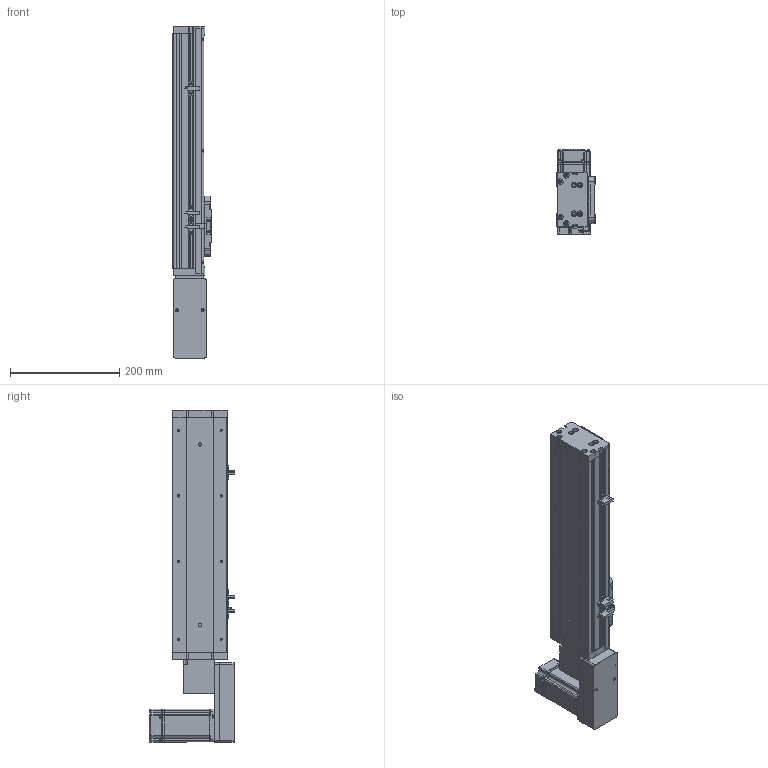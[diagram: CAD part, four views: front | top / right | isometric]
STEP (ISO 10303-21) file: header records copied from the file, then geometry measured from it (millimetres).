
FILE_DESCRIPTION (( 'STEP AP214' ), '1' );
FILE_NAME ('KSD100B-S250-MRB-CR.STEP', '2019-11-13T05:51:51', ( '微软用户' ), ( '微软中国' ), 'SwSTEP 2.0', 'SolidWorks 2014', '' );
FILE_SCHEMA (( 'AUTOMOTIVE_DESIGN' ));
Length unit declared in the file: millimetre
Products named in the file (15): 100遵裔啣揤啣; 100遵裔啣250俴最; 100宽侧板250行程同步带; 100宽底板全封闭250行程同步带; KSD100B-S250-MRB-CR; 100宽马达安装板连板上下折丝杆同步带; U倰嫖萇EEㄜSX672; 感应片100宽全封闭; 100宽马达安装板同步带右; MHMD042G1CA_2_03; 悵誘欶奻狟殏; 100遵鎮湛假蚾啣蜊; 100宽端板同步带全封闭; 100宽滚珠螺姆安装板1防护罩; 100宽滚珠螺姆安装板1
Assembly tree (18 placements, depth 2):
  KSD100B-S250-MRB-CR
    100宽底板全封闭250行程同步带
    100宽侧板250行程同步带  x2
    100遵裔啣250俴最
    100遵裔啣揤啣  x2
    100宽滚珠螺姆安装板1
    100宽滚珠螺姆安装板1防护罩
    100宽端板同步带全封闭
    100遵鎮湛假蚾啣蜊
    100宽马达安装板同步带右
    感应片100宽全封闭
    U倰嫖萇EEㄜSX672  x3
    100宽马达安装板连板上下折丝杆同步带
    悵誘欶奻狟殏
    MHMD042G1CA_2_03
Bounding box: 70 x 156.2 x 607 mm (x, y, z)
Volume: 1167573.9 mm3; surface area: 547732.9 mm2
Topology: 17 solids, 18 shells, 1613 faces, 4484 edges, 2909 vertices
Faces by surface type: plane 729, cylinder 705, cone 159, bspline 20
Entity records: 56916 total; most frequent: CARTESIAN_POINT 8528, DIRECTION 7784, ORIENTED_EDGE 7224, EDGE_CURVE 3684, AXIS2_PLACEMENT_3D 2779, VERTEX_POINT 2447, LINE 2226, VECTOR 2226
